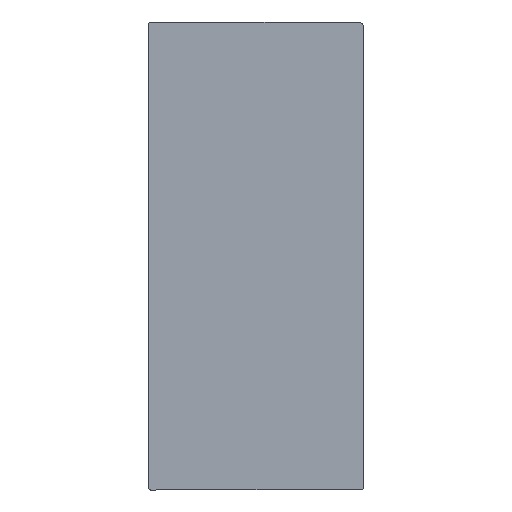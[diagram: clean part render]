
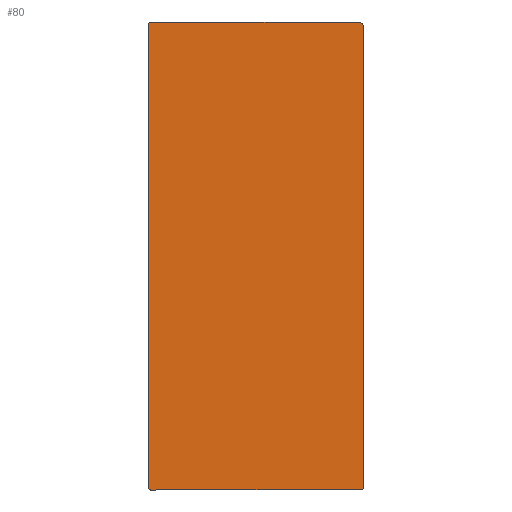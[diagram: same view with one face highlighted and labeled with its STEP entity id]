
A CAD part, left-side view. The second image highlights one B-rep face of the part: STEP entity #80.
In plain terms, the highlighted planar face has unit normal (-1, 0, 0).
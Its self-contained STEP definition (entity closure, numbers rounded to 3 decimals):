
#80 = ADVANCED_FACE( '', ( #109 ), #110, .F. );
#109 = FACE_OUTER_BOUND( '', #154, .T. );
#110 = PLANE( '', #155 );
#154 = EDGE_LOOP( '', ( #235, #236, #237, #238, #239, #240, #241, #242 ) );
#155 = AXIS2_PLACEMENT_3D( '', #243, #244, #245 );
#235 = ORIENTED_EDGE( '', *, *, #367, .F. );
#236 = ORIENTED_EDGE( '', *, *, #378, .F. );
#237 = ORIENTED_EDGE( '', *, *, #373, .F. );
#238 = ORIENTED_EDGE( '', *, *, #370, .F. );
#239 = ORIENTED_EDGE( '', *, *, #379, .F. );
#240 = ORIENTED_EDGE( '', *, *, #380, .F. );
#241 = ORIENTED_EDGE( '', *, *, #375, .F. );
#242 = ORIENTED_EDGE( '', *, *, #381, .F. );
#243 = CARTESIAN_POINT( '', ( 0., -11.25, 44. ) );
#244 = DIRECTION( '', ( 1., 0., 0. ) );
#245 = DIRECTION( '', ( 0., 0., -1. ) );
#367 = EDGE_CURVE( '', #434, #435, #436, .T. );
#370 = EDGE_CURVE( '', #439, #440, #441, .T. );
#373 = EDGE_CURVE( '', #440, #444, #445, .T. );
#375 = EDGE_CURVE( '', #447, #448, #449, .T. );
#378 = EDGE_CURVE( '', #444, #434, #452, .T. );
#379 = EDGE_CURVE( '', #453, #439, #454, .T. );
#380 = EDGE_CURVE( '', #448, #453, #455, .T. );
#381 = EDGE_CURVE( '', #435, #447, #456, .T. );
#434 = VERTEX_POINT( '', #526 );
#435 = VERTEX_POINT( '', #527 );
#436 = LINE( '', #528, #529 );
#439 = VERTEX_POINT( '', #534 );
#440 = VERTEX_POINT( '', #535 );
#441 = CIRCLE( '', #536, 0.2 );
#444 = VERTEX_POINT( '', #541 );
#445 = LINE( '', #542, #543 );
#447 = VERTEX_POINT( '', #546 );
#448 = VERTEX_POINT( '', #547 );
#449 = LINE( '', #548, #549 );
#452 = CIRCLE( '', #554, 0.2 );
#453 = VERTEX_POINT( '', #555 );
#454 = LINE( '', #556, #557 );
#455 = CIRCLE( '', #558, 0.2 );
#456 = CIRCLE( '', #559, 0.5 );
#526 = CARTESIAN_POINT( '', ( 0., 9.15, 44.5 ) );
#527 = CARTESIAN_POINT( '', ( 0., -11.25, 44.5 ) );
#528 = CARTESIAN_POINT( '', ( 0., 9.15, 44.5 ) );
#529 = VECTOR( '', #635, 1000. );
#534 = CARTESIAN_POINT( '', ( 0., 9.15, -1.5 ) );
#535 = CARTESIAN_POINT( '', ( 0., 9.35, -1.3 ) );
#536 = AXIS2_PLACEMENT_3D( '', #638, #639, #640 );
#541 = CARTESIAN_POINT( '', ( 0., 9.35, 44.3 ) );
#542 = CARTESIAN_POINT( '', ( 0., 9.35, -1.3 ) );
#543 = VECTOR( '', #643, 1000. );
#546 = CARTESIAN_POINT( '', ( 0., -11.75, 44. ) );
#547 = CARTESIAN_POINT( '', ( 0., -11.75, -1.3 ) );
#548 = CARTESIAN_POINT( '', ( 0., -11.75, 44. ) );
#549 = VECTOR( '', #645, 1000. );
#554 = AXIS2_PLACEMENT_3D( '', #648, #649, #650 );
#555 = CARTESIAN_POINT( '', ( 0., -11.55, -1.5 ) );
#556 = CARTESIAN_POINT( '', ( 0., -11.55, -1.5 ) );
#557 = VECTOR( '', #651, 1000. );
#558 = AXIS2_PLACEMENT_3D( '', #652, #653, #654 );
#559 = AXIS2_PLACEMENT_3D( '', #655, #656, #657 );
#635 = DIRECTION( '', ( 0., -1., 0. ) );
#638 = CARTESIAN_POINT( '', ( 0., 9.15, -1.3 ) );
#639 = DIRECTION( '', ( 1., 0., 0. ) );
#640 = DIRECTION( '', ( 0., 0., -1. ) );
#643 = DIRECTION( '', ( 0., 0., 1. ) );
#645 = DIRECTION( '', ( 0., 0., -1. ) );
#648 = CARTESIAN_POINT( '', ( 0., 9.15, 44.3 ) );
#649 = DIRECTION( '', ( 1., 0., 0. ) );
#650 = DIRECTION( '', ( 0., 0., -1. ) );
#651 = DIRECTION( '', ( 0., 1., 0. ) );
#652 = CARTESIAN_POINT( '', ( 0., -11.55, -1.3 ) );
#653 = DIRECTION( '', ( 1., 0., 0. ) );
#654 = DIRECTION( '', ( 0., 0., -1. ) );
#655 = CARTESIAN_POINT( '', ( 0., -11.25, 44. ) );
#656 = DIRECTION( '', ( 1., 0., 0. ) );
#657 = DIRECTION( '', ( 0., 0., -1. ) );
